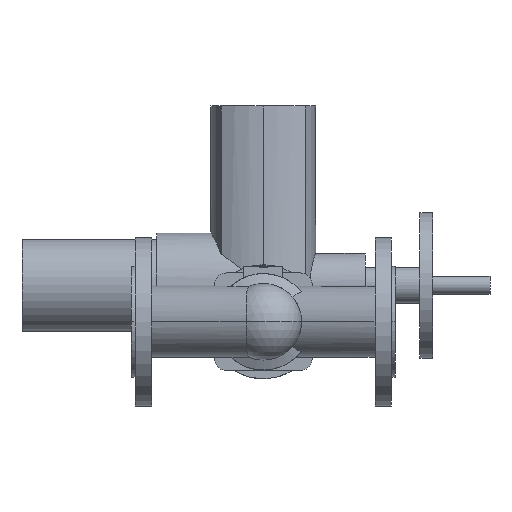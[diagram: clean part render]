
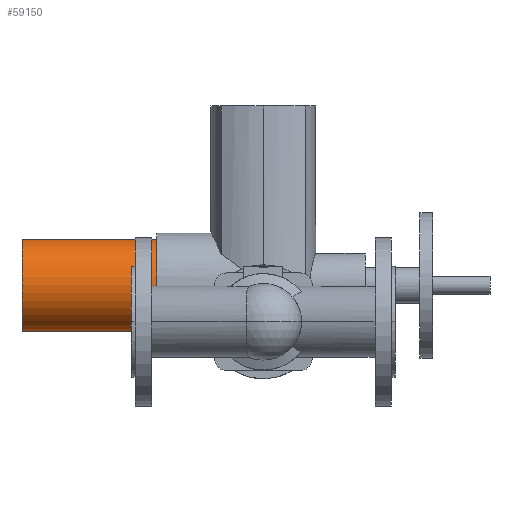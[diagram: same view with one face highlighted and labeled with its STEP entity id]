
A CAD part, front view. The second image highlights one B-rep face of the part: STEP entity #59150.
In plain terms, the highlighted cylindrical face has radius 50.5 mm (diameter 101 mm), a partial arc.
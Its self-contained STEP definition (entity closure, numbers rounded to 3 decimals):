
#58600=CARTESIAN_POINT('',(-46.,670.5,40.));
#58610=DIRECTION('',(1.,0.,0.));
#58620=DIRECTION('',(0.,0.,-1.));
#58630=AXIS2_PLACEMENT_3D('',#58600,#58610,#58620);
#58640=CYLINDRICAL_SURFACE('',#58630,50.5);
#58650=CARTESIAN_POINT('',(-46.,670.5,90.5));
#58660=DIRECTION('',(1.,0.,0.));
#58670=VECTOR('',#58660,1.);
#58680=LINE('',#58650,#58670);
#58690=CARTESIAN_POINT('',(-120.,670.5,90.5));
#58700=VERTEX_POINT('',#58690);
#58710=CARTESIAN_POINT('',(28.,670.5,90.5));
#58720=VERTEX_POINT('',#58710);
#58730=SURFACE_CURVE('',#58680,(#58640,#58640),.CURVE_3D.);
#58740=EDGE_CURVE('',#58700,#58720,#58730,.T.);
#58750=ORIENTED_EDGE('',*,*,#58740,.F.);
#58760=CARTESIAN_POINT('',(28.,670.5,40.));
#58770=DIRECTION('',(-1.,0.,0.));
#58780=DIRECTION('',(0.,0.,-1.));
#58790=AXIS2_PLACEMENT_3D('',#58760,#58770,#58780);
#58800=CIRCLE('',#58790,50.5);
#58810=CARTESIAN_POINT('',(28.,670.5,-10.5));
#58820=VERTEX_POINT('',#58810);
#58830=CARTESIAN_POINT('',(28.,670.5,-14.));
#58840=DIRECTION('',(-1.,0.,0.));
#58850=DIRECTION('',(0.,0.,-1.));
#58860=AXIS2_PLACEMENT_3D('',#58830,#58840,#58850);
#58870=PLANE('',#58860);
#58880=SURFACE_CURVE('',#58800,(#58640,#58870),.CURVE_3D.);
#58890=EDGE_CURVE('',#58820,#58720,#58880,.T.);
#58900=ORIENTED_EDGE('',*,*,#58890,.T.);
#58910=CARTESIAN_POINT('',(-46.,670.5,-10.5));
#58920=DIRECTION('',(1.,0.,0.));
#58930=VECTOR('',#58920,1.);
#58940=LINE('',#58910,#58930);
#58950=CARTESIAN_POINT('',(-120.,670.5,-10.5));
#58960=VERTEX_POINT('',#58950);
#58970=SURFACE_CURVE('',#58940,(#58640,#58640),.CURVE_3D.);
#58980=EDGE_CURVE('',#58960,#58820,#58970,.T.);
#58990=ORIENTED_EDGE('',*,*,#58980,.T.);
#59000=CARTESIAN_POINT('',(-120.,670.5,40.));
#59010=DIRECTION('',(-1.,0.,0.));
#59020=DIRECTION('',(0.,0.,-1.));
#59030=AXIS2_PLACEMENT_3D('',#59000,#59010,#59020);
#59040=CIRCLE('',#59030,50.5);
#59050=CARTESIAN_POINT('',(-120.,670.5,14.75));
#59060=DIRECTION('',(-1.,0.,0.));
#59070=DIRECTION('',(0.,0.,-1.));
#59080=AXIS2_PLACEMENT_3D('',#59050,#59060,#59070);
#59090=PLANE('',#59080);
#59100=SURFACE_CURVE('',#59040,(#58640,#59090),.CURVE_3D.);
#59110=EDGE_CURVE('',#58960,#58700,#59100,.T.);
#59120=ORIENTED_EDGE('',*,*,#59110,.F.);
#59130=EDGE_LOOP('',(#59120,#58990,#58900,#58750));
#59140=FACE_OUTER_BOUND('',#59130,.T.);
#59150=ADVANCED_FACE('',(#59140),#58640,.T.);
